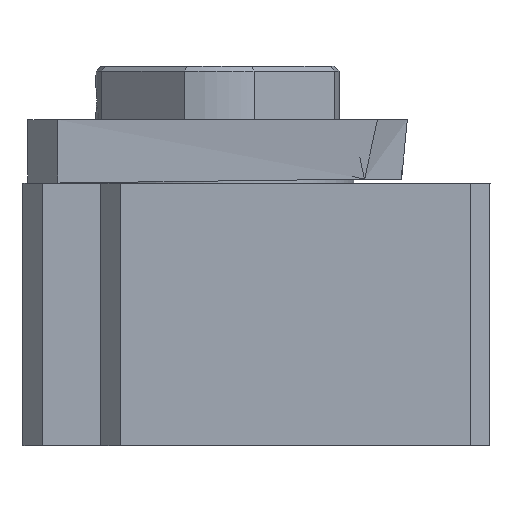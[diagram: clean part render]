
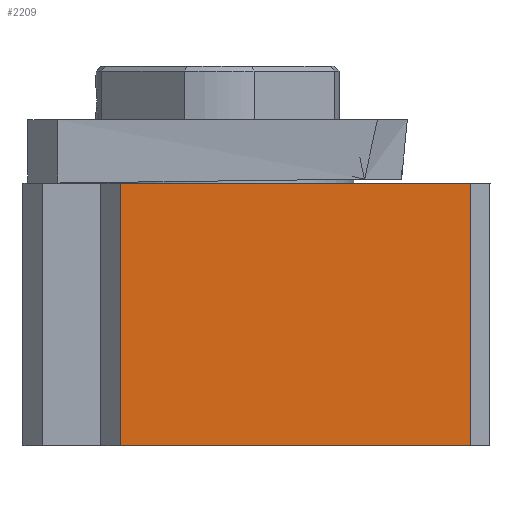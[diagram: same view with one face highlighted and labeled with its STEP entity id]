
A CAD part, left-side view. The second image highlights one B-rep face of the part: STEP entity #2209.
In plain terms, the highlighted planar face has unit normal (1, 0, 0).
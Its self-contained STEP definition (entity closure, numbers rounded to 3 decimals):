
#137 = CARTESIAN_POINT ( 'NONE',  ( -48.388, -30.996, -13.5 ) ) ;
#302 = B_SPLINE_CURVE_WITH_KNOTS ( 'NONE', 3,
 ( #13590, #9100, #903, #12206 ),
 .UNSPECIFIED., .F., .F.,
 ( 4, 4 ),
 ( 0., 1. ),
 .UNSPECIFIED. ) ;
#903 = CARTESIAN_POINT ( 'NONE',  ( -48.388, -6.996, 13.5 ) ) ;
#1584 = CARTESIAN_POINT ( 'NONE',  ( -48.388, 5.004, -4.5 ) ) ;
#2209 = ADVANCED_FACE ( 'NONE', ( #11757 ), #7621, .T. ) ;
#2353 = CARTESIAN_POINT ( 'NONE',  ( -48.388, -30.996, 13.5 ) ) ;
#2944 = CARTESIAN_POINT ( 'NONE',  ( -48.388, 5.004, 4.5 ) ) ;
#3172 = EDGE_CURVE ( 'NONE', #4509, #8419, #4479, .T. ) ;
#3409 = CARTESIAN_POINT ( 'NONE',  ( -48.388, -30.996, 4.5 ) ) ;
#3792 = EDGE_LOOP ( 'NONE', ( #16685, #4657, #16327, #18002 ) ) ;
#4479 = B_SPLINE_CURVE_WITH_KNOTS ( 'NONE', 3,
 ( #10050, #2944, #1584, #15488 ),
 .UNSPECIFIED., .F., .F.,
 ( 4, 4 ),
 ( 0., 1. ),
 .UNSPECIFIED. ) ;
#4509 = VERTEX_POINT ( 'NONE', #9796 ) ;
#4657 = ORIENTED_EDGE ( 'NONE', *, *, #11375, .T. ) ;
#4786 = CARTESIAN_POINT ( 'NONE',  ( -48.388, -30.996, -13.5 ) ) ;
#4974 = CARTESIAN_POINT ( 'NONE',  ( -48.388, -30.996, -4.5 ) ) ;
#5230 = AXIS2_PLACEMENT_3D ( 'NONE', #2353, #6319, #10625 ) ;
#5473 = B_SPLINE_CURVE_WITH_KNOTS ( 'NONE', 3,
 ( #17769, #4974, #3409, #17502 ),
 .UNSPECIFIED., .F., .F.,
 ( 4, 4 ),
 ( 0., 1. ),
 .UNSPECIFIED. ) ;
#6066 = CARTESIAN_POINT ( 'NONE',  ( -48.388, 5.004, -13.5 ) ) ;
#6319 = DIRECTION ( 'NONE',  ( 1., 0., 0. ) ) ;
#6519 = CARTESIAN_POINT ( 'NONE',  ( -48.388, 5.004, -13.5 ) ) ;
#7388 = VERTEX_POINT ( 'NONE', #13852 ) ;
#7621 = PLANE ( 'NONE',  #5230 ) ;
#8388 = EDGE_CURVE ( 'NONE', #7388, #4509, #302, .T. ) ;
#8419 = VERTEX_POINT ( 'NONE', #6519 ) ;
#9100 = CARTESIAN_POINT ( 'NONE',  ( -48.388, -18.996, 13.5 ) ) ;
#9796 = CARTESIAN_POINT ( 'NONE',  ( -48.388, 5.004, 13.5 ) ) ;
#10050 = CARTESIAN_POINT ( 'NONE',  ( -48.388, 5.004, 13.5 ) ) ;
#10625 = DIRECTION ( 'NONE',  ( 0., 1., 0. ) ) ;
#10906 = EDGE_CURVE ( 'NONE', #12772, #7388, #5473, .T. ) ;
#11375 = EDGE_CURVE ( 'NONE', #12772, #8419, #17760, .T. ) ;
#11757 = FACE_OUTER_BOUND ( 'NONE', #3792, .T. ) ;
#12206 = CARTESIAN_POINT ( 'NONE',  ( -48.388, 5.004, 13.5 ) ) ;
#12772 = VERTEX_POINT ( 'NONE', #137 ) ;
#13590 = CARTESIAN_POINT ( 'NONE',  ( -48.388, -30.996, 13.5 ) ) ;
#13852 = CARTESIAN_POINT ( 'NONE',  ( -48.388, -30.996, 13.5 ) ) ;
#14533 = CARTESIAN_POINT ( 'NONE',  ( -48.388, -6.996, -13.5 ) ) ;
#15488 = CARTESIAN_POINT ( 'NONE',  ( -48.388, 5.004, -13.5 ) ) ;
#16327 = ORIENTED_EDGE ( 'NONE', *, *, #3172, .F. ) ;
#16685 = ORIENTED_EDGE ( 'NONE', *, *, #10906, .F. ) ;
#17114 = CARTESIAN_POINT ( 'NONE',  ( -48.388, -18.996, -13.5 ) ) ;
#17502 = CARTESIAN_POINT ( 'NONE',  ( -48.388, -30.996, 13.5 ) ) ;
#17760 = B_SPLINE_CURVE_WITH_KNOTS ( 'NONE', 3,
 ( #4786, #17114, #14533, #6066 ),
 .UNSPECIFIED., .F., .F.,
 ( 4, 4 ),
 ( 0., 1. ),
 .UNSPECIFIED. ) ;
#17769 = CARTESIAN_POINT ( 'NONE',  ( -48.388, -30.996, -13.5 ) ) ;
#18002 = ORIENTED_EDGE ( 'NONE', *, *, #8388, .F. ) ;
